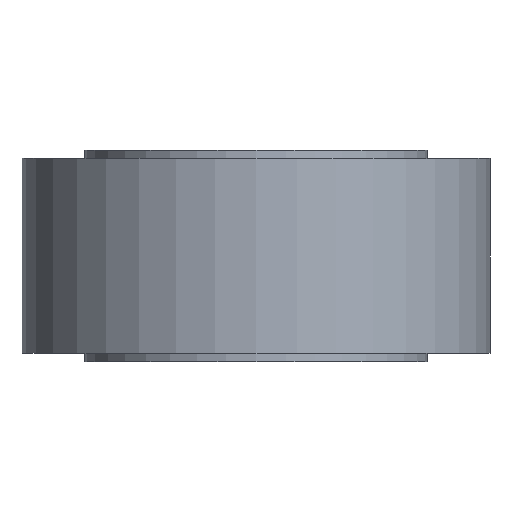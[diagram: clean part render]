
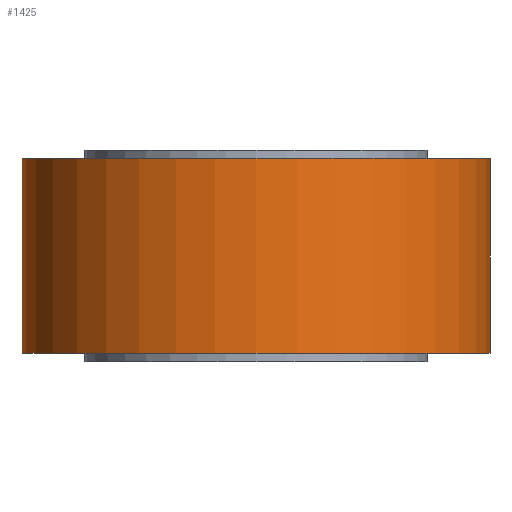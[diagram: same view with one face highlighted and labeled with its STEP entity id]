
A CAD part, front view. The second image highlights one B-rep face of the part: STEP entity #1425.
In plain terms, the highlighted cylindrical face has radius 27.6 mm (diameter 55.2 mm), a full revolution.
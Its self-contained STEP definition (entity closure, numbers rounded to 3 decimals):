
#30=B_SPLINE_CURVE_WITH_KNOTS('',3,(#2361,#2362,#2363,#2364,#2365,#2366,
#2367,#2368,#2369,#2370,#2371,#2372,#2373,#2374,#2375,#2376,#2377,#2378,
#2379),.UNSPECIFIED.,.F.,.F.,(4,2,2,2,3,2,2,2,4),(2.836,3.072,
3.308,3.545,3.781,4.017,4.254,
4.49,4.726),.UNSPECIFIED.);
#31=B_SPLINE_CURVE_WITH_KNOTS('',3,(#2380,#2381,#2382,#2383,#2384,#2385,
#2386,#2387,#2388,#2389,#2390,#2391,#2392,#2393,#2394,#2395,#2396,#2397),
 .UNSPECIFIED.,.F.,.F.,(4,2,2,2,2,2,2,2,4),(0.945,1.182,
1.418,1.654,1.891,2.127,2.363,
2.599,2.836),.UNSPECIFIED.);
#64=FACE_BOUND('',#228,.T.);
#133=FACE_OUTER_BOUND('',#227,.T.);
#227=EDGE_LOOP('',(#1034,#1035,#1036,#1037,#1038,#1039));
#228=EDGE_LOOP('',(#1040,#1041));
#316=LINE('',#2355,#384);
#384=VECTOR('',#1867,27.6);
#480=CIRCLE('',#1569,27.6);
#481=CIRCLE('',#1570,27.6);
#482=CIRCLE('',#1572,27.6);
#483=CIRCLE('',#1573,27.6);
#610=VERTEX_POINT('',#2349);
#611=VERTEX_POINT('',#2350);
#612=VERTEX_POINT('',#2354);
#613=VERTEX_POINT('',#2356);
#614=VERTEX_POINT('',#2359);
#615=VERTEX_POINT('',#2360);
#773=EDGE_CURVE('',#610,#611,#480,.T.);
#774=EDGE_CURVE('',#611,#610,#481,.T.);
#775=EDGE_CURVE('',#611,#612,#316,.T.);
#776=EDGE_CURVE('',#612,#613,#482,.T.);
#777=EDGE_CURVE('',#613,#612,#483,.T.);
#778=EDGE_CURVE('',#614,#615,#30,.T.);
#779=EDGE_CURVE('',#615,#614,#31,.T.);
#1034=ORIENTED_EDGE('',*,*,#773,.F.);
#1035=ORIENTED_EDGE('',*,*,#774,.F.);
#1036=ORIENTED_EDGE('',*,*,#775,.T.);
#1037=ORIENTED_EDGE('',*,*,#776,.T.);
#1038=ORIENTED_EDGE('',*,*,#777,.T.);
#1039=ORIENTED_EDGE('',*,*,#775,.F.);
#1040=ORIENTED_EDGE('',*,*,#778,.T.);
#1041=ORIENTED_EDGE('',*,*,#779,.T.);
#1380=CYLINDRICAL_SURFACE('',#1571,27.6);
#1425=ADVANCED_FACE('',(#133,#64),#1380,.T.);
#1569=AXIS2_PLACEMENT_3D('',#2351,#1861,#1862);
#1570=AXIS2_PLACEMENT_3D('',#2352,#1863,#1864);
#1571=AXIS2_PLACEMENT_3D('',#2353,#1865,#1866);
#1572=AXIS2_PLACEMENT_3D('',#2357,#1868,#1869);
#1573=AXIS2_PLACEMENT_3D('',#2358,#1870,#1871);
#1861=DIRECTION('center_axis',(0.,0.,1.));
#1862=DIRECTION('ref_axis',(1.,0.,0.));
#1863=DIRECTION('center_axis',(0.,0.,1.));
#1864=DIRECTION('ref_axis',(1.,0.,0.));
#1865=DIRECTION('center_axis',(0.,0.,1.));
#1866=DIRECTION('ref_axis',(1.,0.,0.));
#1867=DIRECTION('',(0.,0.,-1.));
#1868=DIRECTION('center_axis',(0.,0.,1.));
#1869=DIRECTION('ref_axis',(1.,0.,0.));
#1870=DIRECTION('center_axis',(0.,0.,1.));
#1871=DIRECTION('ref_axis',(1.,0.,0.));
#2349=CARTESIAN_POINT('',(27.6,0.,24.));
#2350=CARTESIAN_POINT('',(-27.6,0.,24.));
#2351=CARTESIAN_POINT('Origin',(0.,0.,24.));
#2352=CARTESIAN_POINT('Origin',(0.,0.,24.));
#2353=CARTESIAN_POINT('Origin',(0.,0.,12.5));
#2354=CARTESIAN_POINT('',(-27.6,0.,1.));
#2355=CARTESIAN_POINT('',(-27.6,0.,12.5));
#2356=CARTESIAN_POINT('',(27.6,0.,1.));
#2357=CARTESIAN_POINT('Origin',(0.,0.,1.));
#2358=CARTESIAN_POINT('Origin',(0.,0.,1.));
#2359=CARTESIAN_POINT('',(0.,27.6,6.25));
#2360=CARTESIAN_POINT('',(0.,27.6,18.75));
#2361=CARTESIAN_POINT('Ctrl Pts',(0.,27.6,6.25));
#2362=CARTESIAN_POINT('Ctrl Pts',(0.788,27.6,6.25));
#2363=CARTESIAN_POINT('Ctrl Pts',(1.626,27.563,6.408));
#2364=CARTESIAN_POINT('Ctrl Pts',(3.165,27.429,7.047));
#2365=CARTESIAN_POINT('Ctrl Pts',(3.866,27.334,7.527));
#2366=CARTESIAN_POINT('Ctrl Pts',(4.973,27.154,8.634));
#2367=CARTESIAN_POINT('Ctrl Pts',(5.453,27.058,9.335));
#2368=CARTESIAN_POINT('Ctrl Pts',(6.092,26.921,10.874));
#2369=CARTESIAN_POINT('Ctrl Pts',(6.25,26.883,11.712));
#2370=CARTESIAN_POINT('Ctrl Pts',(6.25,26.883,12.5));
#2371=CARTESIAN_POINT('Ctrl Pts',(6.25,26.883,13.288));
#2372=CARTESIAN_POINT('Ctrl Pts',(6.092,26.921,14.126));
#2373=CARTESIAN_POINT('Ctrl Pts',(5.453,27.058,15.665));
#2374=CARTESIAN_POINT('Ctrl Pts',(4.973,27.154,16.366));
#2375=CARTESIAN_POINT('Ctrl Pts',(3.866,27.334,17.473));
#2376=CARTESIAN_POINT('Ctrl Pts',(3.165,27.429,17.953));
#2377=CARTESIAN_POINT('Ctrl Pts',(1.626,27.563,18.592));
#2378=CARTESIAN_POINT('Ctrl Pts',(0.788,27.6,18.75));
#2379=CARTESIAN_POINT('Ctrl Pts',(0.,27.6,18.75));
#2380=CARTESIAN_POINT('Ctrl Pts',(0.,27.6,18.75));
#2381=CARTESIAN_POINT('Ctrl Pts',(-0.788,27.6,18.75));
#2382=CARTESIAN_POINT('Ctrl Pts',(-1.626,27.563,18.592));
#2383=CARTESIAN_POINT('Ctrl Pts',(-3.165,27.429,17.953));
#2384=CARTESIAN_POINT('Ctrl Pts',(-3.866,27.334,17.473));
#2385=CARTESIAN_POINT('Ctrl Pts',(-4.973,27.154,16.366));
#2386=CARTESIAN_POINT('Ctrl Pts',(-5.453,27.058,15.665));
#2387=CARTESIAN_POINT('Ctrl Pts',(-6.092,26.921,14.126));
#2388=CARTESIAN_POINT('Ctrl Pts',(-6.25,26.883,13.288));
#2389=CARTESIAN_POINT('Ctrl Pts',(-6.25,26.883,11.712));
#2390=CARTESIAN_POINT('Ctrl Pts',(-6.092,26.921,10.874));
#2391=CARTESIAN_POINT('Ctrl Pts',(-5.453,27.058,9.335));
#2392=CARTESIAN_POINT('Ctrl Pts',(-4.973,27.154,8.634));
#2393=CARTESIAN_POINT('Ctrl Pts',(-3.866,27.334,7.527));
#2394=CARTESIAN_POINT('Ctrl Pts',(-3.165,27.429,7.047));
#2395=CARTESIAN_POINT('Ctrl Pts',(-1.626,27.563,6.408));
#2396=CARTESIAN_POINT('Ctrl Pts',(-0.788,27.6,6.25));
#2397=CARTESIAN_POINT('Ctrl Pts',(0.,27.6,6.25));
